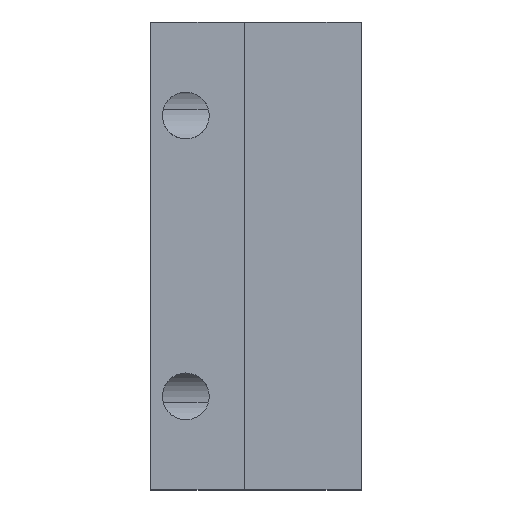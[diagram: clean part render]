
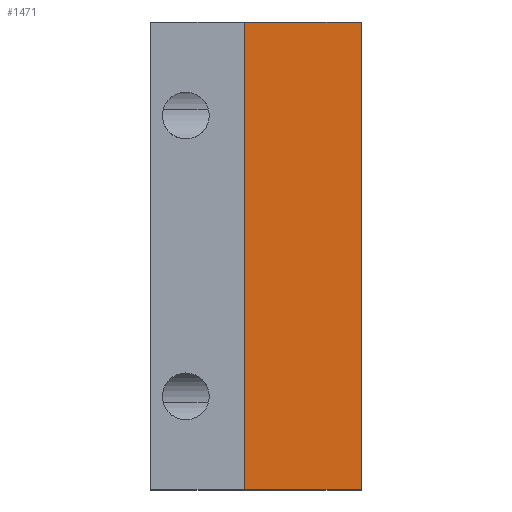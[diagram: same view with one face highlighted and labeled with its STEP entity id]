
A CAD part, left-side view. The second image highlights one B-rep face of the part: STEP entity #1471.
In plain terms, the highlighted planar face has unit normal (-1, 0, 0) as drawn and (1, 0, 0) by its records, which use the part's own axes.
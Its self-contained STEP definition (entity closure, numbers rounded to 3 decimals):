
#415 = CARTESIAN_POINT ( 'NONE',  ( 20., 20., 10. ) ) ;
#417 = CARTESIAN_POINT ( 'NONE',  ( 20., -20., 10. ) ) ;
#418 = CARTESIAN_POINT ( 'NONE',  ( 20., 20., 0. ) ) ;
#421 = CARTESIAN_POINT ( 'NONE',  ( 20., -20., 0. ) ) ;
#447 = EDGE_CURVE ( 'NONE', #2946, #2943, #3917, .T. ) ;
#459 = EDGE_CURVE ( 'NONE', #2942, #2940, #1960, .T. ) ;
#460 = EDGE_CURVE ( 'NONE', #2943, #2940, #1970, .T. ) ;
#465 = EDGE_CURVE ( 'NONE', #2946, #2942, #1974, .T. ) ;
#1159 = VECTOR ( 'NONE', #1985, 1000. ) ;
#1457 = VECTOR ( 'NONE', #1972, 1000. ) ;
#1471 = ADVANCED_FACE ( 'NONE', ( #4887 ), #4890, .T. ) ;
#1960 = LINE ( 'NONE', #1968, #2727 ) ;
#1968 = CARTESIAN_POINT ( 'NONE',  ( 20., 20., 10. ) ) ;
#1969 = DIRECTION ( 'NONE',  ( 0., 1., 0. ) ) ;
#1970 = LINE ( 'NONE', #1971, #1457 ) ;
#1971 = CARTESIAN_POINT ( 'NONE',  ( 20., 20., 0. ) ) ;
#1972 = DIRECTION ( 'NONE',  ( 0., 0., 1. ) ) ;
#1974 = LINE ( 'NONE', #1984, #1159 ) ;
#1984 = CARTESIAN_POINT ( 'NONE',  ( 20., -20., 0. ) ) ;
#1985 = DIRECTION ( 'NONE',  ( 0., 0., 1. ) ) ;
#2564 = AXIS2_PLACEMENT_3D ( 'NONE', #4889, #4892, #4893 ) ;
#2594 = VECTOR ( 'NONE', #3921, 1000. ) ;
#2727 = VECTOR ( 'NONE', #1969, 1000. ) ;
#2735 = ORIENTED_EDGE ( 'NONE', *, *, #460, .T. ) ;
#2736 = ORIENTED_EDGE ( 'NONE', *, *, #447, .T. ) ;
#2737 = ORIENTED_EDGE ( 'NONE', *, *, #465, .F. ) ;
#2738 = ORIENTED_EDGE ( 'NONE', *, *, #459, .F. ) ;
#2940 = VERTEX_POINT ( 'NONE', #415 ) ;
#2942 = VERTEX_POINT ( 'NONE', #417 ) ;
#2943 = VERTEX_POINT ( 'NONE', #418 ) ;
#2946 = VERTEX_POINT ( 'NONE', #421 ) ;
#3915 = CARTESIAN_POINT ( 'NONE',  ( 20., 20., 0. ) ) ;
#3917 = LINE ( 'NONE', #3915, #2594 ) ;
#3921 = DIRECTION ( 'NONE',  ( 0., 1., 0. ) ) ;
#4714 = EDGE_LOOP ( 'NONE', ( #2738, #2737, #2736, #2735 ) ) ;
#4887 = FACE_OUTER_BOUND ( 'NONE', #4714, .T. ) ;
#4889 = CARTESIAN_POINT ( 'NONE',  ( 20., 20., 0. ) ) ;
#4890 = PLANE ( 'NONE',  #2564 ) ;
#4892 = DIRECTION ( 'NONE',  ( 1., 0., 0. ) ) ;
#4893 = DIRECTION ( 'NONE',  ( 0., 1., 0. ) ) ;
